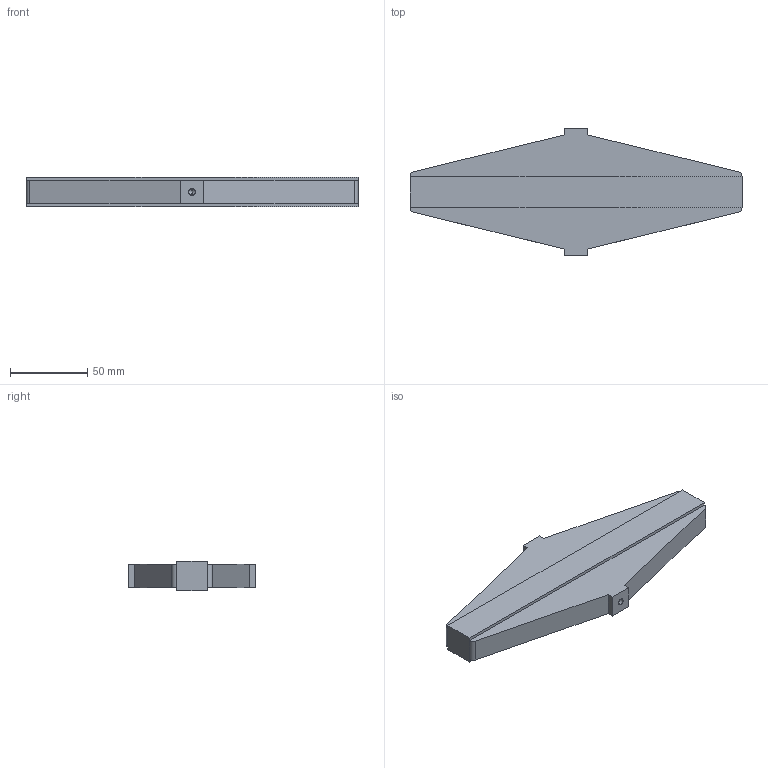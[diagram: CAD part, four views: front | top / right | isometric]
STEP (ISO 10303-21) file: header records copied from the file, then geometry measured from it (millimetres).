
FILE_DESCRIPTION (( 'STEP AP203' ), '1' );
FILE_NAME ('550A14三维外形尺寸图-2024.01.09.STEP', '2024-01-09T00:42:25', ( 'User' ), ( 'china' ), 'SwSTEP 2.0', 'SolidWorks 2016', '' );
FILE_SCHEMA (( 'CONFIG_CONTROL_DESIGN' ));
Length unit declared in the file: millimetre
Products named in the file (1): 550A14三维外形尺寸图-2024.01.09
Bounding box: 215 x 82 x 19 mm (x, y, z)
Volume: 183758 mm3; surface area: 32011.4 mm2
Topology: 1 solids, 1 shells, 34 faces, 92 edges, 58 vertices
Faces by surface type: plane 22, cylinder 8, cone 4
Entity records: 1109 total; most frequent: CARTESIAN_POINT 181, ORIENTED_EDGE 176, DIRECTION 174, EDGE_CURVE 88, VECTOR 72, LINE 72, VERTEX_POINT 58, AXIS2_PLACEMENT_3D 51
